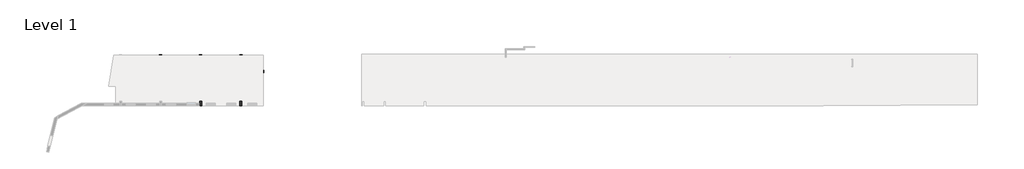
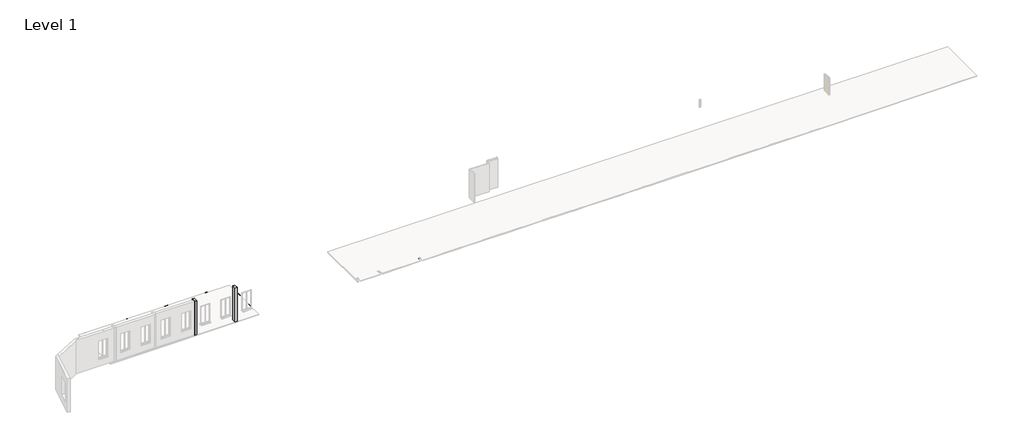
# One storey, part 2 of 3: 35 beams, 2 columns.
"""IFC4 building model written with IfcOpenShell, lengths in millimetres."""

from ifc_helpers import new_model, si_unit, frame, origin, place, context, project, spatial, polyline, outline, extrude, faceted_brep, element, save

model = new_model("IFC4")

# Units and contexts
model_context = context("Model", 3, world=origin())
ifc_project = project(units=[si_unit("LENGTHUNIT", "METRE", prefix="MILLI")], contexts=[model_context])

# Site, building, storey
site = spatial("IfcSite", under=ifc_project)
building = spatial("IfcBuilding", under=site)
storey = spatial("IfcBuildingStorey", under=building, Name="Level 1", Elevation=-4370.0)

# Beams
placement = place(None, origin())
element("IfcBeam", 1, ObjectType="Calcestruzzo - Trave rettangolare : 140 x 240mm", at=placement, inside=storey, context=model_context, shape_type="SweptSolid", body=[
    extrude(outline(polyline([(17042.3573777, 28173.3947423), (17042.3573777, 28313.3947423), (21682.3573777, 28313.3947423), (21682.3573777, 28173.3947423), (17042.3573777, 28173.3947423)])), frame((0.0, 0.0, -4820.0), z_axis=(0.0, 0.0, 1.0), x_axis=(1.0, 0.0, 0.0)), (0.0, 0.0, 1.0), 240.0),
])
element("IfcBeam", 2, ObjectType="Calcestruzzo - Trave rettangolare : 140 x 240mm", at=placement, inside=storey, context=model_context, shape_type="SweptSolid", body=[
    extrude(outline(polyline([(17042.4247891, 26433.3947423), (17042.4247891, 26573.3947423), (21682.3573777, 26573.3947423), (21682.3573777, 26433.3947423), (17042.4247891, 26433.3947423)])), frame((0.0, 0.0, -4820.0), z_axis=(0.0, 0.0, 1.0), x_axis=(1.0, 0.0, 0.0)), (0.0, 0.0, 1.0), 240.0),
])
element("IfcBeam", 3, ObjectType="Calcestruzzo - Trave rettangolare : 140 x 240mm", at=placement, inside=storey, context=model_context, shape_type="SweptSolid", body=[
    extrude(outline(polyline([(21882.3573777, 28173.3947423), (21882.3573777, 28313.3947423), (26522.3573777, 28313.3947423), (26522.3573777, 28173.3947423), (21882.3573777, 28173.3947423)])), frame((0.0, 0.0, -4820.0), z_axis=(0.0, 0.0, 1.0), x_axis=(1.0, 0.0, 0.0)), (0.0, 0.0, 1.0), 240.0),
])
element("IfcBeam", 4, ObjectType="Calcestruzzo - Trave rettangolare : 140 x 240mm", at=placement, inside=storey, context=model_context, shape_type="SweptSolid", body=[
    extrude(outline(polyline([(26722.3573777, 28173.3947423), (26722.3573777, 28313.3947423), (31362.3573777, 28313.3947423), (31362.3573777, 28173.3947423), (26722.3573777, 28173.3947423)])), frame((0.0, 0.0, -4820.0), z_axis=(0.0, 0.0, 1.0), x_axis=(1.0, 0.0, 0.0)), (0.0, 0.0, 1.0), 240.0),
])
element("IfcBeam", 5, ObjectType="Calcestruzzo - Trave rettangolare : 140 x 240mm", at=placement, inside=storey, context=model_context, shape_type="SweptSolid", body=[
    extrude(outline(polyline([(31562.3573777, 28173.3947423), (31562.3573777, 28313.3947423), (36202.3573777, 28313.3947423), (36202.3573777, 28173.3947423), (31562.3573777, 28173.3947423)])), frame((0.0, 0.0, -4820.0), z_axis=(0.0, 0.0, 1.0), x_axis=(1.0, 0.0, 0.0)), (0.0, 0.0, 1.0), 240.0),
])
element("IfcBeam", 6, ObjectType="Calcestruzzo - Trave rettangolare : 140 x 240mm", at=placement, inside=storey, context=model_context, shape_type="SweptSolid", body=[
    extrude(outline(polyline([(36402.3573777, 28173.3947423), (36402.3573777, 28313.3947423), (41042.3573777, 28313.3947423), (41042.3573777, 28173.3947423), (36402.3573777, 28173.3947423)])), frame((0.0, 0.0, -4820.0), z_axis=(0.0, 0.0, 1.0), x_axis=(1.0, 0.0, 0.0)), (0.0, 0.0, 1.0), 240.0),
])
element("IfcBeam", 7, ObjectType="Calcestruzzo - Trave rettangolare : 140 x 240mm", at=placement, inside=storey, context=model_context, shape_type="SweptSolid", body=[
    extrude(outline(polyline([(41242.3573777, 28173.3947423), (41242.3573777, 28313.3947423), (45942.3573777, 28313.3947423), (45942.3573777, 28173.3947423), (41242.3573777, 28173.3947423)])), frame((0.0, 0.0, -4820.0), z_axis=(0.0, 0.0, 1.0), x_axis=(1.0, 0.0, 0.0)), (0.0, 0.0, 1.0), 240.0),
])
element("IfcBeam", 8, ObjectType="Calcestruzzo - Trave rettangolare : 140 x 240mm", at=placement, inside=storey, context=model_context, shape_type="SweptSolid", body=[
    extrude(outline(polyline([(46142.3573777, 28173.3947423), (46142.3573777, 28313.3947423), (48782.3573777, 28313.3947423), (48782.3573777, 28173.3947423), (46142.3573777, 28173.3947423)])), frame((0.0, 0.0, -4820.0), z_axis=(0.0, 0.0, 1.0), x_axis=(1.0, 0.0, 0.0)), (0.0, 0.0, 1.0), 240.0),
])
element("IfcBeam", 9, ObjectType="Calcestruzzo - Trave rettangolare : 140 x 240mm", at=placement, inside=storey, context=model_context, shape_type="SweptSolid", body=[
    extrude(outline(polyline([(48982.3573777, 28173.3947423), (48982.3573777, 28313.3947423), (53672.3573777, 28313.3947423), (53672.3573777, 28173.3947423), (48982.3573777, 28173.3947423)])), frame((0.0, 0.0, -4820.0), z_axis=(0.0, 0.0, 1.0), x_axis=(1.0, 0.0, 0.0)), (0.0, 0.0, 1.0), 240.0),
])
element("IfcBeam", 10, ObjectType="Calcestruzzo - Trave rettangolare : 140 x 240mm", at=placement, inside=storey, context=model_context, shape_type="SweptSolid", body=[
    extrude(outline(polyline([(58712.3573777, 28173.3947423), (58712.3573777, 28313.3947423), (63382.3573777, 28313.3947423), (63382.3573777, 28173.3947423), (58712.3573777, 28173.3947423)])), frame((0.0, 0.0, -4820.0), z_axis=(0.0, 0.0, 1.0), x_axis=(1.0, 0.0, 0.0)), (0.0, 0.0, 1.0), 240.0),
])
element("IfcBeam", 11, ObjectType="Calcestruzzo - Trave rettangolare : 140 x 240mm", at=placement, inside=storey, context=model_context, shape_type="SweptSolid", body=[
    extrude(outline(polyline([(63582.3573777, 28173.3947423), (63582.3573777, 28313.3947423), (68262.3573777, 28313.3947423), (68262.3573777, 28173.3947423), (63582.3573777, 28173.3947423)])), frame((0.0, 0.0, -4820.0), z_axis=(0.0, 0.0, 1.0), x_axis=(1.0, 0.0, 0.0)), (0.0, 0.0, 1.0), 240.0),
])
element("IfcBeam", 12, ObjectType="Calcestruzzo - Trave rettangolare : 140 x 240mm", at=placement, inside=storey, context=model_context, shape_type="SweptSolid", body=[
    extrude(outline(polyline([(21882.3573777, 26433.3947423), (21882.3573777, 26573.3947423), (26522.3573777, 26573.3947423), (26522.3573777, 26433.3947423), (21882.3573777, 26433.3947423)])), frame((0.0, 0.0, -4820.0), z_axis=(0.0, 0.0, 1.0), x_axis=(1.0, 0.0, 0.0)), (0.0, 0.0, 1.0), 240.0),
])
element("IfcBeam", 13, ObjectType="Calcestruzzo - Trave rettangolare : 140 x 240mm", at=placement, inside=storey, context=model_context, shape_type="SweptSolid", body=[
    extrude(outline(polyline([(26722.3573777, 26433.3947423), (26722.3573777, 26573.3947423), (31362.3573777, 26573.3947423), (31362.3573777, 26433.3947423), (26722.3573777, 26433.3947423)])), frame((0.0, 0.0, -4820.0), z_axis=(0.0, 0.0, 1.0), x_axis=(1.0, 0.0, 0.0)), (0.0, 0.0, 1.0), 240.0),
])
element("IfcBeam", 14, ObjectType="Calcestruzzo - Trave rettangolare : 140 x 240mm", at=placement, inside=storey, context=model_context, shape_type="SweptSolid", body=[
    extrude(outline(polyline([(31562.3573777, 26433.3947423), (31562.3573777, 26573.3947423), (36202.3573777, 26573.3947423), (36202.3573777, 26433.3947423), (31562.3573777, 26433.3947423)])), frame((0.0, 0.0, -4820.0), z_axis=(0.0, 0.0, 1.0), x_axis=(1.0, 0.0, 0.0)), (0.0, 0.0, 1.0), 240.0),
])
element("IfcBeam", 15, ObjectType="Calcestruzzo - Trave rettangolare : 140 x 240mm", at=placement, inside=storey, context=model_context, shape_type="SweptSolid", body=[
    extrude(outline(polyline([(36402.3573777, 26433.3947423), (36402.3573777, 26573.3947423), (41042.3573777, 26573.3947423), (41042.3573777, 26433.3947423), (36402.3573777, 26433.3947423)])), frame((0.0, 0.0, -4820.0), z_axis=(0.0, 0.0, 1.0), x_axis=(1.0, 0.0, 0.0)), (0.0, 0.0, 1.0), 240.0),
])
element("IfcBeam", 16, ObjectType="Calcestruzzo - Trave rettangolare : 140 x 240mm", at=placement, inside=storey, context=model_context, shape_type="SweptSolid", body=[
    extrude(outline(polyline([(41242.3573777, 26433.3947423), (41242.3573777, 26573.3947423), (45942.3573777, 26573.3947423), (45942.3573777, 26433.3947423), (41242.3573777, 26433.3947423)])), frame((0.0, 0.0, -4820.0), z_axis=(0.0, 0.0, 1.0), x_axis=(1.0, 0.0, 0.0)), (0.0, 0.0, 1.0), 240.0),
])
element("IfcBeam", 17, ObjectType="Calcestruzzo - Trave rettangolare : 140 x 240mm", at=placement, inside=storey, context=model_context, shape_type="SweptSolid", body=[
    extrude(outline(polyline([(46142.3573777, 26433.3947423), (46142.3573777, 26573.3947423), (48782.3573777, 26573.3947423), (48782.3573777, 26433.3947423), (46142.3573777, 26433.3947423)])), frame((0.0, 0.0, -4820.0), z_axis=(0.0, 0.0, 1.0), x_axis=(1.0, 0.0, 0.0)), (0.0, 0.0, 1.0), 240.0),
])
element("IfcBeam", 18, ObjectType="Calcestruzzo - Trave rettangolare : 140 x 240mm", at=placement, inside=storey, context=model_context, shape_type="SweptSolid", body=[
    extrude(outline(polyline([(73132.3573777, 28313.3947423), (73132.3573777, 28173.3947423), (68462.3573777, 28173.3947423), (68462.3573777, 28313.3947423), (73132.3573777, 28313.3947423)])), frame((0.0, 0.0, -4820.0), z_axis=(0.0, 0.0, 1.0), x_axis=(1.0, 0.0, 0.0)), (0.0, 0.0, 1.0), 240.0),
])
element("IfcBeam", 19, ObjectType="Calcestruzzo - Trave rettangolare : 140 x 240mm", at=placement, inside=storey, context=model_context, shape_type="SweptSolid", body=[
    extrude(outline(polyline([(77932.3573777, 28313.3947423), (77932.3573777, 28173.3947423), (73332.3573777, 28173.3947423), (73332.3573777, 28313.3947423), (77932.3573777, 28313.3947423)])), frame((0.0, 0.0, -4820.0), z_axis=(0.0, 0.0, 1.0), x_axis=(1.0, 0.0, 0.0)), (0.0, 0.0, 1.0), 240.0),
])
element("IfcBeam", 20, ObjectType="Calcestruzzo - Trave rettangolare : 140 x 240mm", at=placement, inside=storey, context=model_context, shape_type="SweptSolid", body=[
    extrude(outline(polyline([(80482.3573777, 28313.3947423), (80482.3573777, 28173.3947423), (78132.3573777, 28173.3947423), (78132.3573777, 28313.3947423), (80482.3573777, 28313.3947423)])), frame((0.0, 0.0, -4820.0), z_axis=(0.0, 0.0, 1.0), x_axis=(1.0, 0.0, 0.0)), (0.0, 0.0, 1.0), 240.0),
])
element("IfcBeam", 21, ObjectType="Calcestruzzo - Trave rettangolare : 140 x 240mm", at=placement, inside=storey, context=model_context, shape_type="SweptSolid", body=[
    extrude(outline(polyline([(85282.3573777, 28313.3947423), (85282.3573777, 28173.3947423), (80682.3573777, 28173.3947423), (80682.3573777, 28313.3947423), (85282.3573777, 28313.3947423)])), frame((0.0, 0.0, -4820.0), z_axis=(0.0, 0.0, 1.0), x_axis=(1.0, 0.0, 0.0)), (0.0, 0.0, 1.0), 240.0),
])
element("IfcBeam", 22, ObjectType="Calcestruzzo - Trave rettangolare : 140 x 240mm", at=placement, inside=storey, context=model_context, shape_type="SweptSolid", body=[
    extrude(outline(polyline([(48982.3573777, 26433.3947423), (48982.3573777, 26573.3947423), (51767.3599913, 26573.3947423), (51767.3599913, 26433.3947423), (48982.3573777, 26433.3947423)])), frame((0.0, 0.0, -4820.0), z_axis=(0.0, 0.0, 1.0), x_axis=(1.0, 0.0, 0.0)), (0.0, 0.0, 1.0), 240.0),
])
element("IfcBeam", 23, ObjectType="Calcestruzzo - Trave rettangolare : 200 x 300mm", at=placement, inside=storey, context=model_context, shape_type="Brep", body=[
    faceted_brep([(16842.3573777, 29596.4647091, -4580.0), (17042.3573777, 29596.4647091, -4580.0), (17042.3573777, 29596.4647091, -4880.0), (16842.3573777, 29596.4647091, -4880.0), (16842.3573777, 24644.0647091, -4580.0), (16842.3573777, 24644.0647091, -4880.0), (17042.3573777, 24644.0647091, -4880.0), (17042.3573777, 24644.0647091, -4580.0), (17042.3573777, 28173.3947423, -4580.0), (17042.3573777, 28313.3947423, -4580.0)], [[[0, 1, 2, 3]], [[4, 5, 6, 7]], [[1, 0, 4, 7, 8, 9]], [[2, 1, 9, 8, 7, 6]], [[3, 2, 6, 5]], [[0, 3, 5, 4]]]),
])
element("IfcBeam", 24, ObjectType="Calcestruzzo - Trave rettangolare : 200 x 300mm", at=placement, inside=storey, context=model_context, shape_type="Brep", body=[
    faceted_brep([(21682.3573777, 29596.418073, -4580.0), (21882.3573777, 29596.418073, -4580.0), (21882.3573777, 29596.418073, -4880.0), (21682.3573777, 29596.418073, -4880.0), (21682.3573777, 24644.018073, -4580.0), (21682.3573777, 24644.018073, -4880.0), (21882.3573777, 24644.018073, -4880.0), (21882.3573777, 24644.018073, -4580.0), (21682.3573777, 28313.3947423, -4580.0), (21682.3573777, 28173.3947423, -4580.0), (21682.3573777, 26573.3947423, -4580.0), (21682.3573777, 26433.3947423, -4580.0), (21882.3573777, 26433.3947423, -4580.0), (21882.3573777, 26573.3947423, -4580.0), (21882.3573777, 28173.3947423, -4580.0), (21882.3573777, 28313.3947423, -4580.0)], [[[0, 1, 2, 3]], [[4, 5, 6, 7]], [[1, 0, 8, 9, 10, 11, 4, 7, 12, 13, 14, 15]], [[2, 1, 15, 14, 13, 12, 7, 6]], [[3, 2, 6, 5]], [[0, 3, 5, 4, 11, 10, 9, 8]]]),
])
element("IfcBeam", 25, ObjectType="Calcestruzzo - Trave rettangolare : 200 x 300mm", at=placement, inside=storey, context=model_context, shape_type="Brep", body=[
    faceted_brep([(26522.3573777, 29595.8694137, -4580.0), (26722.3573777, 29595.8694137, -4580.0), (26722.3573777, 29595.8694137, -4880.0), (26522.3573777, 29595.8694137, -4880.0), (26522.3573777, 24644.4694137, -4580.0), (26522.3573777, 24644.4694137, -4880.0), (26722.3573777, 24644.4694137, -4880.0), (26722.3573777, 24644.4694137, -4580.0), (26522.3573777, 28313.3947423, -4580.0), (26522.3573777, 28173.3947423, -4580.0), (26522.3573777, 26573.3947423, -4580.0), (26522.3573777, 26433.3947423, -4580.0), (26722.3573777, 26433.3947423, -4580.0), (26722.3573777, 26573.3947423, -4580.0), (26722.3573777, 28173.3947423, -4580.0), (26722.3573777, 28313.3947423, -4580.0)], [[[0, 1, 2, 3]], [[4, 5, 6, 7]], [[1, 0, 8, 9, 10, 11, 4, 7, 12, 13, 14, 15]], [[2, 1, 15, 14, 13, 12, 7, 6]], [[3, 2, 6, 5]], [[0, 3, 5, 4, 11, 10, 9, 8]]]),
])
element("IfcBeam", 26, ObjectType="Calcestruzzo - Trave rettangolare : 200 x 300mm", at=placement, inside=storey, context=model_context, shape_type="Brep", body=[
    faceted_brep([(31362.3573777, 29596.8636192, -4580.0), (31562.3573777, 29596.8636192, -4580.0), (31562.3573777, 29596.8636192, -4880.0), (31362.3573777, 29596.8636192, -4880.0), (31362.3573777, 24644.4636192, -4580.0), (31362.3573777, 24644.4636192, -4880.0), (31562.3573777, 24644.4636192, -4880.0), (31562.3573777, 24644.4636192, -4580.0), (31362.3573777, 28313.3947423, -4580.0), (31362.3573777, 28173.3947423, -4580.0), (31362.3573777, 26573.3947423, -4580.0), (31362.3573777, 26433.3947423, -4580.0), (31562.3573777, 26433.3947423, -4580.0), (31562.3573777, 26573.3947423, -4580.0), (31562.3573777, 28173.3947423, -4580.0), (31562.3573777, 28313.3947423, -4580.0)], [[[0, 1, 2, 3]], [[4, 5, 6, 7]], [[1, 0, 8, 9, 10, 11, 4, 7, 12, 13, 14, 15]], [[2, 1, 15, 14, 13, 12, 7, 6]], [[3, 2, 6, 5]], [[0, 3, 5, 4, 11, 10, 9, 8]]]),
])
element("IfcBeam", 27, ObjectType="Calcestruzzo - Trave rettangolare : 200 x 300mm", at=placement, inside=storey, context=model_context, shape_type="Brep", body=[
    faceted_brep([(36202.3573777, 29595.6856901, -4580.0), (36402.3573777, 29595.6856901, -4580.0), (36402.3573777, 29595.6856901, -4880.0), (36202.3573777, 29595.6856901, -4880.0), (36202.3573777, 24644.2856901, -4580.0), (36202.3573777, 24644.2856901, -4880.0), (36402.3573777, 24644.2856901, -4880.0), (36402.3573777, 24644.2856901, -4580.0), (36202.3573777, 28313.3947423, -4580.0), (36202.3573777, 28173.3947423, -4580.0), (36202.3573777, 26573.3947423, -4580.0), (36202.3573777, 26433.3947423, -4580.0), (36402.3573777, 26433.3947423, -4580.0), (36402.3573777, 26573.3947423, -4580.0), (36402.3573777, 28173.3947423, -4580.0), (36402.3573777, 28313.3947423, -4580.0)], [[[0, 1, 2, 3]], [[4, 5, 6, 7]], [[1, 0, 8, 9, 10, 11, 4, 7, 12, 13, 14, 15]], [[2, 1, 15, 14, 13, 12, 7, 6]], [[3, 2, 6, 5]], [[0, 3, 5, 4, 11, 10, 9, 8]]]),
])
element("IfcBeam", 28, ObjectType="Calcestruzzo - Trave rettangolare : 200 x 300mm", at=placement, inside=storey, context=model_context, shape_type="Brep", body=[
    faceted_brep([(41042.3573777, 29594.3947423, -4580.0), (41242.3573777, 29594.3947423, -4580.0), (41242.3573777, 29594.3947423, -4880.0), (41042.3573777, 29594.3947423, -4880.0), (41042.3573777, 24643.9947423, -4580.0), (41042.3573777, 24643.9947423, -4880.0), (41242.3573777, 24643.9947423, -4880.0), (41242.3573777, 24643.9947423, -4580.0), (41042.3573777, 28313.3947423, -4580.0), (41042.3573777, 28173.3947423, -4580.0), (41042.3573777, 26573.3947423, -4580.0), (41042.3573777, 26433.3947423, -4580.0), (41242.3573777, 26433.3947423, -4580.0), (41242.3573777, 26573.3947423, -4580.0), (41242.3573777, 28173.3947423, -4580.0), (41242.3573777, 28313.3947423, -4580.0)], [[[0, 1, 2, 3]], [[4, 5, 6, 7]], [[1, 0, 8, 9, 10, 11, 4, 7, 12, 13, 14, 15]], [[2, 1, 15, 14, 13, 12, 7, 6]], [[3, 2, 6, 5]], [[0, 3, 5, 4, 11, 10, 9, 8]]]),
])
element("IfcBeam", 29, ObjectType="Calcestruzzo - Trave rettangolare : 200 x 300mm", at=placement, inside=storey, context=model_context, shape_type="Brep", body=[
    faceted_brep([(45942.3573777, 29595.5140428, -4580.0), (46142.3573777, 29595.5140428, -4580.0), (46142.3573777, 29595.5140428, -4880.0), (45942.3573777, 29595.5140428, -4880.0), (45942.3573777, 24644.1140428, -4580.0), (45942.3573777, 24644.1140428, -4880.0), (46142.3573777, 24644.1140428, -4880.0), (46142.3573777, 24644.1140428, -4580.0), (45942.3573777, 28313.3947423, -4580.0), (45942.3573777, 28173.3947423, -4580.0), (45942.3573777, 26573.3947423, -4580.0), (45942.3573777, 26433.3947423, -4580.0), (46142.3573777, 26433.3947423, -4580.0), (46142.3573777, 26573.3947423, -4580.0), (46142.3573777, 28173.3947423, -4580.0), (46142.3573777, 28313.3947423, -4580.0)], [[[0, 1, 2, 3]], [[4, 5, 6, 7]], [[1, 0, 8, 9, 10, 11, 4, 7, 12, 13, 14, 15]], [[2, 1, 15, 14, 13, 12, 7, 6]], [[3, 2, 6, 5]], [[0, 3, 5, 4, 11, 10, 9, 8]]]),
])
element("IfcBeam", 30, ObjectType="Calcestruzzo - Trave rettangolare : 200 x 300mm", at=placement, inside=storey, context=model_context, shape_type="Brep", body=[
    faceted_brep([(48782.3573777, 29595.6043465, -4580.0), (48982.3573777, 29595.6043465, -4580.0), (48982.3573777, 29595.6043465, -4880.0), (48782.3573777, 29595.6043465, -4880.0), (48782.3573777, 24644.2043465, -4580.0), (48782.3573777, 24644.2043465, -4880.0), (48982.3573777, 24644.2043465, -4880.0), (48982.3573777, 24644.2043465, -4580.0), (48782.3573777, 28313.3947423, -4580.0), (48782.3573777, 28173.3947423, -4580.0), (48782.3573777, 26573.3947423, -4580.0), (48782.3573777, 26433.3947423, -4580.0), (48982.3573777, 26433.3947423, -4580.0), (48982.3573777, 26573.3947423, -4580.0), (48982.3573777, 28173.3947423, -4580.0), (48982.3573777, 28313.3947423, -4580.0)], [[[0, 1, 2, 3]], [[4, 5, 6, 7]], [[1, 0, 8, 9, 10, 11, 4, 7, 12, 13, 14, 15]], [[2, 1, 15, 14, 13, 12, 7, 6]], [[3, 2, 6, 5]], [[0, 3, 5, 4, 11, 10, 9, 8]]]),
])
element("IfcBeam", 31, ObjectType="Calcestruzzo - Trave rettangolare : 300 x 400mm", at=placement, inside=storey, context=model_context, shape_type="Brep", body=[
    faceted_brep([(2328.4250368, 27863.3893107, -4470.0), (2328.4250368, 27863.3893107, -4870.0), (2328.4250368, 28163.3893107, -4870.0), (2328.4250368, 28163.3893107, -4470.0), (-321.2723874, 28163.3893107, -4870.0), (-321.2723874, 27863.3893107, -4870.0), (-321.2723874, 27863.3893107, -4570.0), (-321.2723874, 28163.3893107, -4570.0), (2248.7276126, 28163.3893107, -4470.0), (2248.7276126, 27863.3893107, -4470.0), (2248.7276126, 28163.3893107, -4570.0), (2248.7276126, 27863.3893107, -4570.0)], [[[0, 1, 2, 3]], [[4, 5, 6, 7]], [[0, 3, 8, 9]], [[3, 2, 4, 7, 10, 8]], [[2, 1, 5, 4]], [[1, 0, 9, 11, 6, 5]], [[11, 10, 7, 6]], [[10, 11, 9, 8]]]),
    faceted_brep([(-621.2723874, 28163.3893107, -4870.0), (-5161.275001, 28163.3893107, -4870.0), (-5461.275001, 28163.3893107, -4870.0), (-10001.2776146, 28163.3893107, -4870.0), (-10301.2776146, 28163.3893107, -4870.0), (-14841.2802282, 28163.3893107, -4870.0), (-14841.2802282, 28163.3893107, -4570.0), (-10301.2776146, 28163.3893107, -4570.0), (-10001.2776146, 28163.3893107, -4570.0), (-5461.275001, 28163.3893107, -4570.0), (-5161.275001, 28163.3893107, -4570.0), (-621.2723874, 28163.3893107, -4570.0), (-621.2723874, 27863.3893107, -4870.0), (-5161.275001, 27863.3893107, -4870.0), (-5461.275001, 27863.3893107, -4870.0), (-10001.2776146, 27863.3893107, -4870.0), (-10301.2776146, 27863.3893107, -4870.0), (-14841.2802282, 27863.3893107, -4870.0), (-621.2723874, 27863.3893107, -4570.0), (-5161.275001, 27863.3893107, -4570.0), (-5461.275001, 27863.3893107, -4570.0), (-10001.2776146, 27863.3893107, -4570.0), (-10301.2776146, 27863.3893107, -4570.0), (-14841.2802282, 27863.3893107, -4570.0)], [[[0, 1, 2, 3, 4, 5, 6, 7, 8, 9, 10, 11]], [[0, 12, 13, 14, 15, 16, 17, 5, 4, 3, 2, 1]], [[17, 16, 15, 14, 13, 12, 18, 19, 20, 21, 22, 23]], [[12, 0, 11, 18]], [[5, 17, 23, 6]], [[11, 10, 9, 8, 7, 6, 23, 22, 21, 20, 19, 18]]]),
])
element("IfcBeam", 32, ObjectType="Calcestruzzo - Trave rettangolare : 300 x 400mm", at=placement, inside=storey, context=model_context, shape_type="Brep", body=[
    faceted_brep([(2252.4250368, 25713.3893107, -4470.0), (2252.4250368, 25713.3893107, -4870.0), (2252.4250368, 26013.3893107, -4870.0), (2252.4250368, 26013.3893107, -4470.0), (-346.2723874, 26013.3893107, -4870.0), (-346.2723874, 25713.3893107, -4870.0), (-346.2723874, 25713.3893107, -4570.0), (-346.2723874, 26013.3893107, -4570.0), (2248.7276126, 26013.3893107, -4470.0), (2248.7276126, 25713.3893107, -4470.0), (2248.7276126, 26013.3893107, -4570.0), (2248.7276126, 25713.3893107, -4570.0)], [[[0, 1, 2, 3]], [[4, 5, 6, 7]], [[0, 3, 8, 9]], [[3, 2, 4, 7, 10, 8]], [[2, 1, 5, 4]], [[1, 0, 9, 11, 6, 5]], [[11, 10, 7, 6]], [[10, 11, 9, 8]]]),
    faceted_brep([(-15116.2723874, 26013.3893107, -4870.0), (-15141.2802282, 26013.3893107, -4870.0), (-15141.2802282, 26013.3893107, -4570.0), (-15116.2723874, 26013.3893107, -4570.0), (-15141.2802282, 25713.3893107, -4870.0), (-15116.2723874, 25713.3893107, -4870.0), (-15116.2723874, 25713.3893107, -4570.0), (-15141.2802282, 25713.3893107, -4570.0)], [[[0, 1, 2, 3]], [[4, 1, 0, 5]], [[4, 5, 6, 7]], [[1, 4, 7, 2]], [[5, 0, 3, 6]], [[3, 2, 7, 6]]]),
    faceted_brep([(-5186.275001, 26013.3893107, -4870.0), (-5186.275001, 25713.3893107, -4870.0), (-5186.275001, 25713.3893107, -4570.0), (-5186.275001, 26013.3893107, -4570.0), (-596.2723874, 26013.3893107, -4870.0), (-5161.275001, 26013.3893107, -4870.0), (-5161.275001, 26013.3893107, -4570.0), (-596.2723874, 26013.3893107, -4570.0), (-596.2723874, 25713.3893107, -4870.0), (-596.2723874, 25713.3893107, -4570.0)], [[[0, 1, 2, 3]], [[4, 5, 0, 3, 6, 7]], [[1, 0, 5, 4, 8]], [[1, 8, 9, 2]], [[8, 4, 7, 9]], [[3, 2, 9, 7, 6]]]),
    faceted_brep([(-5436.275001, 25713.3893107, -4870.0), (-5436.275001, 26013.3893107, -4870.0), (-5436.275001, 26013.3893107, -4570.0), (-5436.275001, 25713.3893107, -4570.0), (-10026.2776146, 26013.3893107, -4870.0), (-10026.2776146, 25713.3893107, -4870.0), (-10026.2776146, 25713.3893107, -4570.0), (-10026.2776146, 26013.3893107, -4570.0), (-5461.275001, 26013.3893107, -4870.0), (-10001.2776146, 26013.3893107, -4870.0), (-10001.2776146, 26013.3893107, -4570.0), (-5461.275001, 26013.3893107, -4570.0)], [[[0, 1, 2, 3]], [[4, 5, 6, 7]], [[1, 8, 9, 4, 7, 10, 11, 2]], [[1, 0, 5, 4, 9, 8]], [[5, 0, 3, 6]], [[3, 2, 11, 10, 7, 6]]]),
    faceted_brep([(-14866.2723874, 26013.3893107, -4870.0), (-14866.2723874, 25713.3893107, -4870.0), (-14866.2723874, 25713.3893107, -4570.0), (-14866.2723874, 26013.3893107, -4570.0), (-10276.2776146, 25713.3893107, -4870.0), (-10276.2776146, 26013.3893107, -4870.0), (-10276.2776146, 26013.3893107, -4570.0), (-10276.2776146, 25713.3893107, -4570.0), (-10301.2776146, 26013.3893107, -4870.0), (-14841.2802282, 26013.3893107, -4870.0), (-14841.2802282, 26013.3893107, -4570.0), (-10301.2776146, 26013.3893107, -4570.0)], [[[0, 1, 2, 3]], [[4, 5, 6, 7]], [[5, 8, 9, 0, 3, 10, 11, 6]], [[1, 0, 9, 8, 5, 4]], [[1, 4, 7, 2]], [[3, 2, 7, 6, 11, 10]]]),
])
element("IfcBeam", 33, ObjectType="Calcestruzzo - Trave rettangolare : 300 x 400mm", at=placement, inside=storey, context=model_context, shape_type="Brep", body=[
    faceted_brep([(-621.2723874, 30026.0893107, -4470.0), (-321.2723874, 30026.0893107, -4470.0), (-321.2723874, 30026.0893107, -4870.0), (-621.2723874, 30026.0893107, -4870.0), (-621.2723874, 30013.3893107, -4470.0), (-321.2723874, 30013.3893107, -4470.0), (-321.2723874, 30013.3893107, -4570.0), (-321.2723874, 28163.3893107, -4570.0), (-321.2723874, 27863.3893107, -4570.0), (-321.2723874, 26013.3893107, -4570.0), (-321.2723874, 26013.3893107, -4870.0), (-321.2723874, 27863.3893107, -4870.0), (-321.2723874, 28163.3893107, -4870.0), (-621.2723874, 26013.3893107, -4870.0), (-621.2723874, 27863.3893107, -4870.0), (-621.2723874, 28163.3893107, -4870.0), (-621.2723874, 26013.3893107, -4570.0), (-621.2723874, 27863.3893107, -4570.0), (-621.2723874, 28163.3893107, -4570.0), (-621.2723874, 30013.3893107, -4570.0)], [[[0, 1, 2, 3]], [[1, 0, 4, 5]], [[2, 1, 5, 6, 7, 8, 9, 10, 11, 12]], [[3, 2, 12, 11, 10, 13, 14, 15]], [[0, 3, 15, 14, 13, 16, 17, 18, 19, 4]], [[13, 10, 9, 16]], [[6, 19, 18, 17, 16, 9, 8, 7]], [[19, 6, 5, 4]]]),
])
element("IfcBeam", 34, ObjectType="Calcestruzzo - Trave rettangolare : 300 x 400mm", at=placement, inside=storey, context=model_context, shape_type="Brep", body=[
    faceted_brep([(-5461.275001, 30026.0893107, -4470.0), (-5161.275001, 30026.0893107, -4470.0), (-5161.275001, 30026.0893107, -4870.0), (-5461.275001, 30026.0893107, -4870.0), (-5461.275001, 30013.3893107, -4470.0), (-5161.275001, 30013.3893107, -4470.0), (-5161.275001, 30013.3893107, -4570.0), (-5161.275001, 28163.3893107, -4570.0), (-5161.275001, 28163.3893107, -4870.0), (-5461.275001, 28163.3893107, -4870.0), (-5461.275001, 28163.3893107, -4570.0), (-5461.275001, 30013.3893107, -4570.0)], [[[0, 1, 2, 3]], [[1, 0, 4, 5]], [[2, 1, 5, 6, 7, 8]], [[3, 2, 8, 9]], [[0, 3, 9, 10, 11, 4]], [[9, 8, 7, 10]], [[6, 11, 10, 7]], [[11, 6, 5, 4]]]),
    faceted_brep([(-5461.275001, 26013.3893107, -4870.0), (-5436.275001, 26013.3893107, -4870.0), (-5186.275001, 26013.3893107, -4870.0), (-5161.275001, 26013.3893107, -4870.0), (-5161.275001, 26013.3893107, -4570.0), (-5186.275001, 26013.3893107, -4570.0), (-5436.275001, 26013.3893107, -4570.0), (-5461.275001, 26013.3893107, -4570.0), (-5161.275001, 27863.3893107, -4870.0), (-5461.275001, 27863.3893107, -4870.0), (-5461.275001, 27863.3893107, -4570.0), (-5161.275001, 27863.3893107, -4570.0)], [[[0, 1, 2, 3, 4, 5, 6, 7]], [[8, 9, 10, 11]], [[3, 8, 11, 4]], [[3, 2, 1, 0, 9, 8]], [[9, 0, 7, 10]], [[7, 6, 5, 4, 11, 10]]]),
])
element("IfcBeam", 35, ObjectType="Calcestruzzo - Trave rettangolare : 300 x 400mm", at=placement, inside=storey, context=model_context, shape_type="Brep", body=[
    faceted_brep([(-10301.2776146, 30026.0893107, -4470.0), (-10001.2776146, 30026.0893107, -4470.0), (-10001.2776146, 30026.0893107, -4870.0), (-10301.2776146, 30026.0893107, -4870.0), (-10301.2776146, 30013.3893107, -4470.0), (-10001.2776146, 30013.3893107, -4470.0), (-10001.2776146, 30013.3893107, -4570.0), (-10001.2776146, 28163.3893107, -4570.0), (-10001.2776146, 28163.3893107, -4870.0), (-10301.2776146, 28163.3893107, -4870.0), (-10301.2776146, 28163.3893107, -4570.0), (-10301.2776146, 30013.3893107, -4570.0)], [[[0, 1, 2, 3]], [[1, 0, 4, 5]], [[2, 1, 5, 6, 7, 8]], [[3, 2, 8, 9]], [[0, 3, 9, 10, 11, 4]], [[9, 8, 7, 10]], [[6, 11, 10, 7]], [[11, 6, 5, 4]]]),
    faceted_brep([(-10301.2776146, 26013.3893107, -4870.0), (-10276.2776146, 26013.3893107, -4870.0), (-10026.2776146, 26013.3893107, -4870.0), (-10001.2776146, 26013.3893107, -4870.0), (-10001.2776146, 26013.3893107, -4570.0), (-10026.2776146, 26013.3893107, -4570.0), (-10276.2776146, 26013.3893107, -4570.0), (-10301.2776146, 26013.3893107, -4570.0), (-10001.2776146, 27863.3893107, -4870.0), (-10301.2776146, 27863.3893107, -4870.0), (-10301.2776146, 27863.3893107, -4570.0), (-10001.2776146, 27863.3893107, -4570.0)], [[[0, 1, 2, 3, 4, 5, 6, 7]], [[8, 9, 10, 11]], [[3, 8, 11, 4]], [[3, 2, 1, 0, 9, 8]], [[9, 0, 7, 10]], [[7, 6, 5, 4, 11, 10]]]),
])

# Columns
element("IfcColumn", 36, ObjectType="Pilastro in calcestruzzo - Rettangolare : 250 x 500", at=placement, inside=storey, context=model_context, shape_type="SweptSolid", body=[
    extrude(outline(polyline([(-5186.275001, 24413.3920265), (-5186.275001, 23913.3920265), (-5436.275001, 23913.3920265), (-5436.275001, 24413.3920265), (-5186.275001, 24413.3920265)])), frame((0.0, 0.0, -4470.0), z_axis=(0.0, 0.0, 1.0), x_axis=(1.0, 0.0, 0.0)), (0.0, 0.0, 1.0), 4315.7259343),
])
element("IfcColumn", 37, ObjectType="Pilastro in calcestruzzo - Rettangolare : 250 x 500", at=placement, inside=storey, context=model_context, shape_type="SweptSolid", body=[
    extrude(outline(polyline([(-346.2723874, 24413.3920265), (-346.2723874, 23913.3920265), (-596.2723874, 23913.3920265), (-596.2723874, 24413.3920265), (-346.2723874, 24413.3920265)])), frame((0.0, 0.0, -4470.0), z_axis=(0.0, 0.0, 1.0), x_axis=(1.0, 0.0, 0.0)), (0.0, 0.0, 1.0), 4298.9785204),
])

save(model, "model.ifc")
